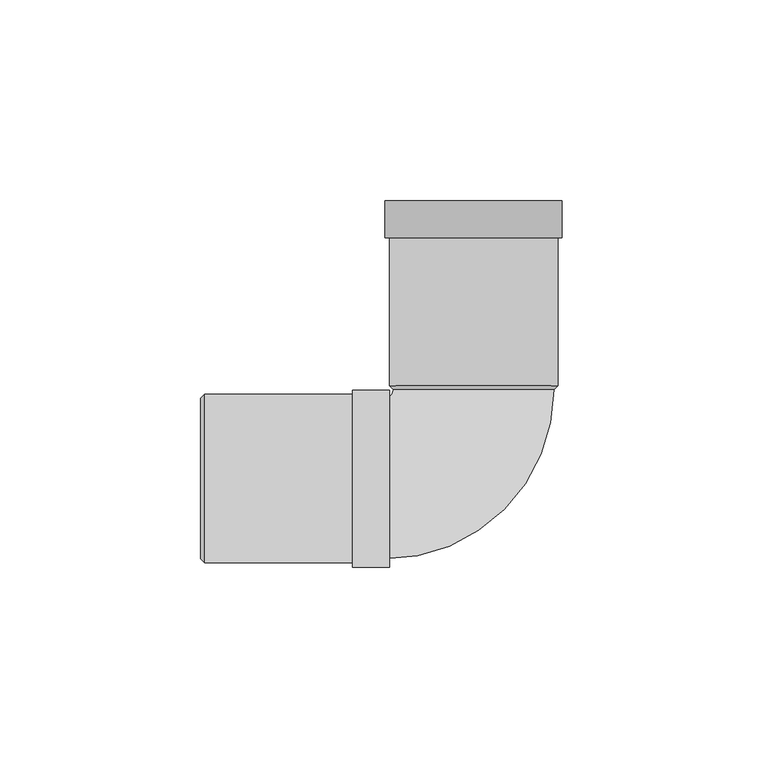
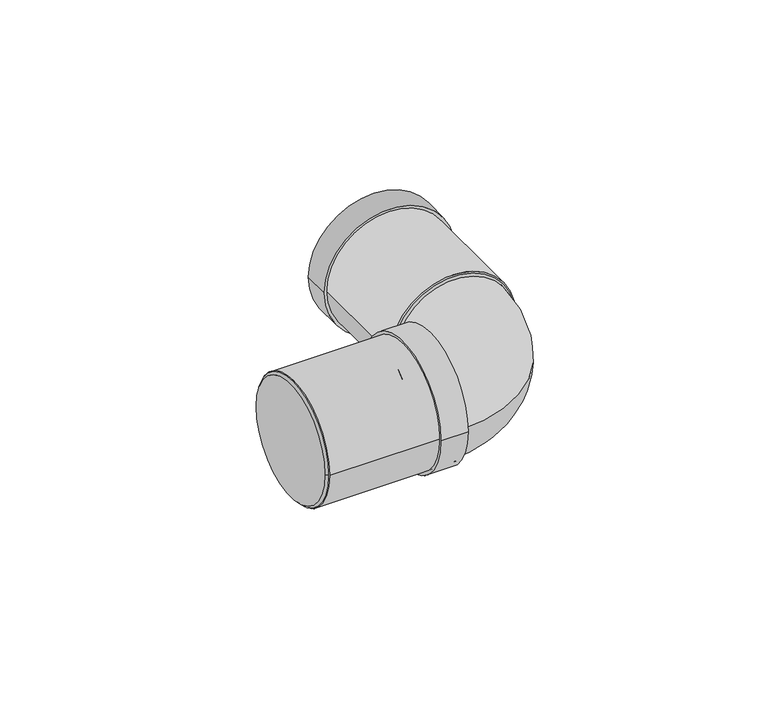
"""IFC4 building model written with IfcOpenShell, lengths in millimetres: pipe fitting geometry, Superdrain HT Bend Composite 2x45 : Superdrain HT Bend Composite 2x45."""

from ifc_helpers import new_model, si_unit, point, frame, origin, origin_2d, place, context, project, spatial, polyline, circle_curve, ellipse_curve, trimmed, segment, composite_curve, outline, extrude, source, transform, mapped, element, save
from ifc_brep_helpers import plane_surface, revolved_surface, advanced_brep


def pipe_fitting_9407c5e4(model_context):
    return source(origin(), model_context, "Body", "SolidModel", [
        extrude(outline(composite_curve([segment(trimmed(circle_curve(origin_2d(), 21.0), [point((21.0, 0.0))], [point((-21.0, 0.0))], False, "CARTESIAN"), True, "CONTINUOUS"), segment(trimmed(circle_curve(origin_2d(), 21.0), [point((-21.0, 0.0))], [point((21.0, 0.0))], False, "CARTESIAN"), True, "CONTINUOUS")], self_intersect=False), holes=[composite_curve([segment(trimmed(circle_curve(origin_2d(), 20.0), [point((20.0, 0.0))], [point((-20.0, 0.0))], True, "CARTESIAN"), True, "CONTINUOUS"), segment(trimmed(circle_curve(origin_2d(), 20.0), [point((-20.0, 0.0))], [point((20.0, 0.0))], True, "CARTESIAN"), True, "CONTINUOUS")], self_intersect=False)]), frame((-67.0, 0.0, 0.0), z_axis=(1.0, 0.0, 0.0), x_axis=(0.0, 1.0, 0.0)), (0.0, 0.0, 1.0), 46.0),
        extrude(outline(composite_curve([segment(trimmed(circle_curve(origin_2d(), 22.05), [point((22.05, 0.0))], [point((-22.05, 0.0))], False, "CARTESIAN"), True, "CONTINUOUS"), segment(trimmed(circle_curve(origin_2d(), 22.05), [point((-22.05, 0.0))], [point((22.05, 0.0))], False, "CARTESIAN"), True, "CONTINUOUS")], self_intersect=False), holes=[composite_curve([segment(trimmed(circle_curve(origin_2d(), 20.0), [point((20.0, 0.0))], [point((-20.0, 0.0))], True, "CARTESIAN"), True, "CONTINUOUS"), segment(trimmed(circle_curve(origin_2d(), 20.0), [point((-20.0, 0.0))], [point((20.0, 0.0))], True, "CARTESIAN"), True, "CONTINUOUS")], self_intersect=False)]), frame((-30.2, 0.0, 0.0), z_axis=(1.0, 0.0, 0.0), x_axis=(0.0, 1.0, 0.0)), (0.0, 0.0, 1.0), 9.2),
        advanced_brep(
        [(-68.0, 20.0, 0.0), (-68.0, -20.0, 0.0), (-67.0, 21.0, 0.0), (-67.0, -21.0, 0.0)],
        [
            (0, 1, circle_curve(frame((-68.0, 0.0, 0.0), z_axis=(-1.0, 0.0, 0.0), x_axis=(0.0, 1.0000000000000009, 0.0)), 20.0)),
            (1, 0, circle_curve(frame((-68.0, 0.0, 0.0), z_axis=(-1.0, 0.0, 0.0), x_axis=(0.0, -1.0000000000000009, 0.0)), 20.0)),
            (2, 3, circle_curve(frame((-67.0, 0.0, 0.0), z_axis=(1.0, 0.0, 0.0), x_axis=(0.0, -1.0000000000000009, 0.0)), 21.0)),
            (3, 2, circle_curve(frame((-67.0, 0.0, 0.0), z_axis=(1.0, 0.0, 0.0), x_axis=(0.0, 1.0000000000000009, 0.0)), 21.0)),
            (3, 1),
            (0, 2),
        ],
        [
            plane_surface(frame((-68.0, 0.0, 0.0), z_axis=(-1.0, 0.0, 0.0), x_axis=(0.0, 0.0, -1.0))),
            plane_surface(frame((-67.0, 0.0, 0.0), z_axis=(1.0, 0.0, 0.0), x_axis=(0.0, 0.0, -1.0))),
            revolved_surface(polyline([(-68.0, 19.999999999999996, 0.0), (-67.0, 21.0, 0.0)]), (-88.0, 0.0, 0.0), (1.0000000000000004, 0.0, 0.0)),
            revolved_surface(polyline([(-68.0, -19.999999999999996, 0.0), (-67.0, -21.0, 0.0)]), (-88.0, 0.0, 0.0), (1.0000000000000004, 0.0, 0.0)),
        ],
        [
            (0, [[1, 2]]),
            (1, [[3, 4]]),
            (2, [[-4, 5, -1, 6]]),
            (3, [[-3, -6, -2, -5]]),
        ],
    ),
        advanced_brep(
        [(20.0, 22.2, 0.0), (-20.0, 22.2, 0.0), (-22.2, -20.0, 0.0), (-22.2, 20.0, 0.0)],
        [
            (0, 1, circle_curve(frame((0.0, 22.2, 0.0), z_axis=(0.0, 1.0, 0.0), x_axis=(-1.0, 0.0, 0.0)), 20.0)),
            (1, 0, circle_curve(frame((0.0, 22.2, 0.0), z_axis=(0.0, 1.0, 0.0), x_axis=(-1.0, 0.0, 0.0)), 20.0)),
            (2, 3, circle_curve(frame((-22.2, 0.0, 0.0), z_axis=(-1.0, 0.0, 0.0), x_axis=(0.0, 1.0, 0.0)), 20.0)),
            (3, 2, circle_curve(frame((-22.2, 0.0, 0.0), z_axis=(-1.0, 0.0, 0.0), x_axis=(0.0, 1.0, 0.0)), 20.0)),
            (3, 1, circle_curve(frame((-22.2, 22.2, 0.0), z_axis=(0.0, 0.0, 1.0), x_axis=(1.0, 0.0, 0.0)), 2.2)),
            (0, 2, circle_curve(frame((-22.2, 22.2, 0.0), z_axis=(0.0, 0.0, -1.0), x_axis=(1.0, 0.0, 0.0)), 42.2)),
        ],
        [
            plane_surface(frame((0.0, 22.2, 0.0), z_axis=(0.0, 1.0, 0.0), x_axis=(0.0, 0.0, -1.0))),
            plane_surface(frame((-22.2, 0.0, 0.0), z_axis=(-1.0, 0.0, 0.0), x_axis=(0.0, 0.0, -1.0))),
            revolved_surface(trimmed(ellipse_curve(frame((0.0, 22.2, 0.0), z_axis=(0.0, -1.0, 0.0), x_axis=(-1.0, 0.0, 0.0)), 20.0, 20.0), [point((-20.0, 22.2, 0.0))], [point((20.0, 22.2, 0.0))], True, "CARTESIAN"), (-22.2, 22.2, 0.0), (0.0, 0.0, 1.0)),
            revolved_surface(trimmed(ellipse_curve(frame((0.0, 22.2, 0.0), z_axis=(0.0, -1.0, 0.0), x_axis=(-1.0, 0.0, 0.0)), 20.0, 20.0), [point((20.0, 22.2, 0.0))], [point((-20.0, 22.2, 0.0))], True, "CARTESIAN"), (-22.2, 22.2, 0.0), (0.0, 0.0, 1.0)),
        ],
        [
            (0, [[1, 2]]),
            (1, [[3, 4]]),
            (2, [[-4, 5, -1, 6]]),
            (3, [[-3, -6, -2, -5]]),
        ],
    ),
        extrude(outline(composite_curve([segment(trimmed(circle_curve(origin_2d(), 21.0), [point((0.0, 21.0))], [point((0.0, -21.0))], False, "CARTESIAN"), True, "CONTINUOUS"), segment(trimmed(circle_curve(origin_2d(), 21.0), [point((0.0, -21.0))], [point((0.0, 21.0))], False, "CARTESIAN"), True, "CONTINUOUS")], self_intersect=False), holes=[composite_curve([segment(trimmed(circle_curve(origin_2d(), 20.0), [point((0.0, 20.0))], [point((0.0, -20.0))], True, "CARTESIAN"), True, "CONTINUOUS"), segment(trimmed(circle_curve(origin_2d(), 20.0), [point((0.0, -20.0))], [point((0.0, 20.0))], True, "CARTESIAN"), True, "CONTINUOUS")], self_intersect=False)]), frame((0.0, 23.2, 0.0), z_axis=(0.0, 1.0, 0.0), x_axis=(0.0, 0.0, 1.0)), (0.0, 0.0, 1.0), 46.0),
        extrude(outline(composite_curve([segment(trimmed(circle_curve(origin_2d(), 22.05), [point((0.0, -22.05))], [point((0.0, 22.05))], False, "CARTESIAN"), True, "CONTINUOUS"), segment(trimmed(circle_curve(origin_2d(), 22.05), [point((0.0, 22.05))], [point((0.0, -22.05))], False, "CARTESIAN"), True, "CONTINUOUS")], self_intersect=False), holes=[composite_curve([segment(trimmed(circle_curve(origin_2d(), 20.0), [point((0.0, -20.0))], [point((0.0, 20.0))], True, "CARTESIAN"), True, "CONTINUOUS"), segment(trimmed(circle_curve(origin_2d(), 20.0), [point((0.0, 20.0))], [point((0.0, -20.0))], True, "CARTESIAN"), True, "CONTINUOUS")], self_intersect=False)]), frame((0.0, 60.0, 0.0), z_axis=(0.0, 1.0, 0.0), x_axis=(0.0, 0.0, 1.0)), (0.0, 0.0, 1.0), 9.2),
        advanced_brep(
        [(21.0, 23.2, 0.0), (-21.0, 23.2, 0.0), (20.0, 22.2, 0.0), (-20.0, 22.2, 0.0)],
        [
            (0, 1, circle_curve(frame((0.0, 23.2, 0.0), z_axis=(0.0, 1.0, 0.0), x_axis=(1.0, 0.0, 0.0)), 21.0)),
            (1, 0, circle_curve(frame((0.0, 23.2, 0.0), z_axis=(0.0, 1.0, 0.0), x_axis=(-1.0, 0.0, 0.0)), 21.0)),
            (2, 3, circle_curve(frame((0.0, 22.2, 0.0), z_axis=(0.0, -1.0, 0.0), x_axis=(-1.0, 0.0, 0.0)), 20.0)),
            (3, 2, circle_curve(frame((0.0, 22.2, 0.0), z_axis=(0.0, -1.0, 0.0), x_axis=(1.0, 0.0, 0.0)), 20.0)),
            (3, 1),
            (0, 2),
        ],
        [
            plane_surface(frame((0.0, 23.2, 0.0), z_axis=(0.0, 1.0, 0.0), x_axis=(0.0, 0.0, -1.0))),
            plane_surface(frame((0.0, 22.2, 0.0), z_axis=(0.0, -1.0, 0.0), x_axis=(0.0, 0.0, -1.0))),
            revolved_surface(polyline([(-20.0, 22.2, 0.0), (-21.0, 23.2, 0.0)]), (0.0, 2.2, 0.0), (0.0, 1.0, 0.0)),
            revolved_surface(polyline([(20.0, 22.2, 0.0), (21.0, 23.2, 0.0)]), (0.0, 2.2, 0.0), (0.0, 1.0, 0.0)),
        ],
        [
            (0, [[1, 2]]),
            (1, [[3, 4]]),
            (2, [[-4, 5, -1, 6]]),
            (3, [[-3, -6, -2, -5]]),
        ],
    ),
        extrude(outline(composite_curve([segment(trimmed(circle_curve(origin_2d(), 20.0), [point((-20.0, 0.0))], [point((20.0, 0.0))], False, "CARTESIAN"), True, "CONTINUOUS"), segment(trimmed(circle_curve(origin_2d(), 20.0), [point((20.0, 0.0))], [point((-20.0, 0.0))], False, "CARTESIAN"), True, "CONTINUOUS")], self_intersect=False)), frame((-67.0, 0.0, 0.0), z_axis=(1.0, 0.0, 0.0), x_axis=(0.0, 1.0, 0.0)), (0.0, 0.0, 1.0), 44.8),
    ])


if __name__ == "__main__":
    model = new_model("IFC4")
    model_context = context("Model", 3, world=origin())
    ifc_project = project(units=[si_unit("LENGTHUNIT", "METRE", prefix="MILLI")], contexts=[model_context])
    site = spatial("IfcSite", under=ifc_project)
    building = spatial("IfcBuilding", under=site)
    placement = place(None, origin())
    pipe_fitting_shape = pipe_fitting_9407c5e4(model_context)
    element("IfcPipeFitting", 1, ObjectType="Superdrain HT Bend Composite 2x45 : Superdrain HT Bend Composite 2x45", at=placement, inside=building, context=model_context, shape_type="MappedRepresentation", body=[
        mapped(pipe_fitting_shape, transform((0.0, 0.0, 0.0), x_axis=(1.0, 0.0, 0.0), y_axis=(0.0, 1.0, 0.0), z_axis=(0.0, 0.0, 1.0))),
    ])
    save(model, "model.ifc")
